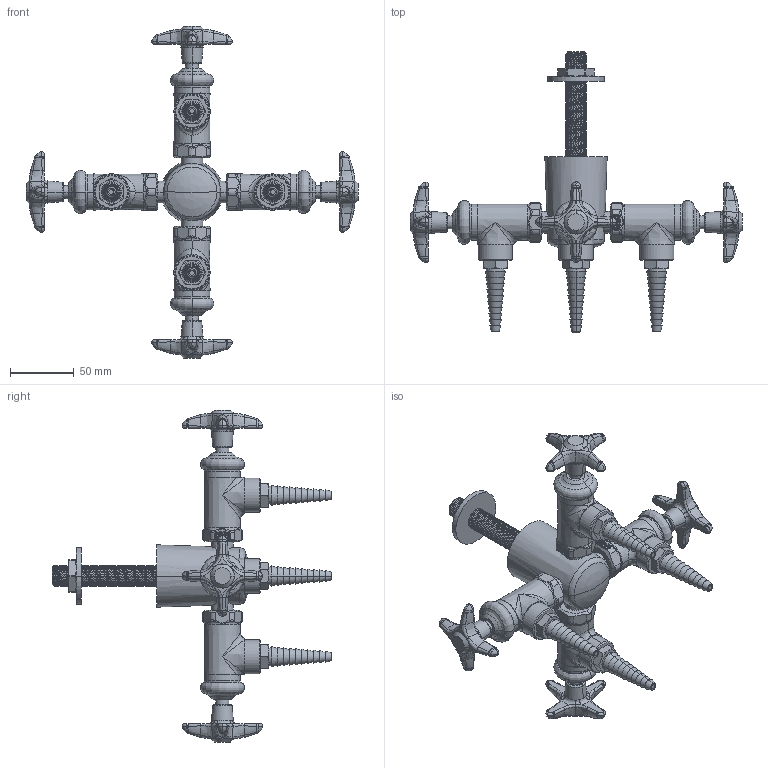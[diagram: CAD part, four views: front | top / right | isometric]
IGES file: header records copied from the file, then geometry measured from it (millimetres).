
Start section:  PTC IGES file: LWV2-A14-40.igs
Global section: file name: LWV2-A14-40.igs; native system: Creo Parametric by PTC Inc.; preprocessor: 2014500; author: usch_engrender; organization: Unknown; date: 20151116.175935; units: inch
Bounding box: 261.31 x 220.37 x 261.31 mm (x, y, z)
Volume: 367019.5 mm3; surface area: 120156.9 mm2
Topology: 1 solids, 14 shells, 2426 faces, 5595 edges, 3299 vertices
Faces by surface type: bspline 1349, revolution 1077
